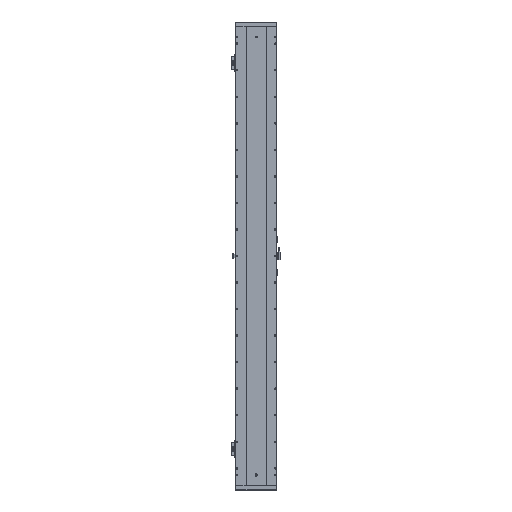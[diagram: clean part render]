
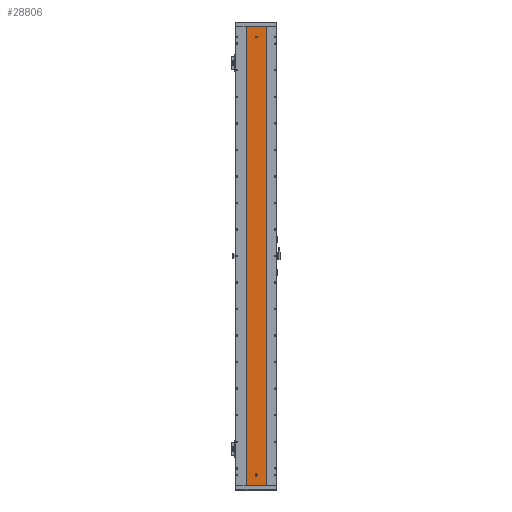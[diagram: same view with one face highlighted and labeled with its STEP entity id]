
A CAD part, front view. The second image highlights one B-rep face of the part: STEP entity #28806.
In plain terms, the highlighted planar face has unit normal (0, -1, 0).
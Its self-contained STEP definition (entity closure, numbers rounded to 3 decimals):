
#1695 = EDGE_LOOP ( 'NONE', ( #92744, #87797, #82993, #9211 ) ) ;
#2243 = LINE ( 'NONE', #37792, #29292 ) ;
#2481 = LINE ( 'NONE', #107945, #45191 ) ;
#4579 = LINE ( 'NONE', #13982, #98510 ) ;
#4678 = DIRECTION ( 'NONE',  ( 0., 0., -1. ) ) ;
#5064 = CARTESIAN_POINT ( 'NONE',  ( 0., 0., -989. ) ) ;
#5430 = EDGE_CURVE ( 'NONE', #65765, #69852, #4579, .T. ) ;
#7354 = ORIENTED_EDGE ( 'NONE', *, *, #75259, .F. ) ;
#9211 = ORIENTED_EDGE ( 'NONE', *, *, #84336, .F. ) ;
#12786 = DIRECTION ( 'NONE',  ( 0., -1., 0. ) ) ;
#13161 = VERTEX_POINT ( 'NONE', #39186 ) ;
#13221 = EDGE_CURVE ( 'NONE', #25235, #92225, #79048, .T. ) ;
#13316 = DIRECTION ( 'NONE',  ( 0., -1., 0. ) ) ;
#13982 = CARTESIAN_POINT ( 'NONE',  ( 45., 0., -1038. ) ) ;
#14221 = DIRECTION ( 'NONE',  ( 1., 0., 0. ) ) ;
#15821 = ORIENTED_EDGE ( 'NONE', *, *, #33599, .T. ) ;
#20448 = LINE ( 'NONE', #104126, #36023 ) ;
#22449 = VERTEX_POINT ( 'NONE', #102859 ) ;
#23117 = DIRECTION ( 'NONE',  ( 1., 0., 0. ) ) ;
#23836 = DIRECTION ( 'NONE',  ( 0., -1., 0. ) ) ;
#25235 = VERTEX_POINT ( 'NONE', #54372 ) ;
#25404 = DIRECTION ( 'NONE',  ( 0., 0., -1. ) ) ;
#28073 = EDGE_CURVE ( 'NONE', #56111, #25235, #20448, .T. ) ;
#28806 = ADVANCED_FACE ( 'NONE', ( #48727, #72897, #78615 ), #32767, .F. ) ;
#29292 = VECTOR ( 'NONE', #92281, 1000. ) ;
#30745 = CARTESIAN_POINT ( 'NONE',  ( 45., 0., 1038. ) ) ;
#31332 = EDGE_LOOP ( 'NONE', ( #64936, #43777, #38611, #15821 ) ) ;
#32767 = PLANE ( 'NONE',  #55851 ) ;
#33599 = EDGE_CURVE ( 'NONE', #22449, #65765, #36638, .T. ) ;
#35323 = CIRCLE ( 'NONE', #93653, 4. ) ;
#36023 = VECTOR ( 'NONE', #4678, 1000. ) ;
#36423 = CARTESIAN_POINT ( 'NONE',  ( 4., 0., -989. ) ) ;
#36638 = LINE ( 'NONE', #52486, #103538 ) ;
#37792 = CARTESIAN_POINT ( 'NONE',  ( 45., 0., 1038. ) ) ;
#38611 = ORIENTED_EDGE ( 'NONE', *, *, #113489, .F. ) ;
#39186 = CARTESIAN_POINT ( 'NONE',  ( 0., 0., 994. ) ) ;
#43777 = ORIENTED_EDGE ( 'NONE', *, *, #68668, .F. ) ;
#45191 = VECTOR ( 'NONE', #89997, 1000. ) ;
#45749 = AXIS2_PLACEMENT_3D ( 'NONE', #78335, #23836, #87458 ) ;
#47881 = CARTESIAN_POINT ( 'NONE',  ( 45., 0., -1038. ) ) ;
#48727 = FACE_BOUND ( 'NONE', #1695, .T. ) ;
#51062 = DIRECTION ( 'NONE',  ( 0., 1., 0. ) ) ;
#52486 = CARTESIAN_POINT ( 'NONE',  ( -45., 0., 1038. ) ) ;
#53679 = CARTESIAN_POINT ( 'NONE',  ( 0., 0., 986. ) ) ;
#54372 = CARTESIAN_POINT ( 'NONE',  ( -4., 0., -991. ) ) ;
#54705 = CIRCLE ( 'NONE', #93627, 4. ) ;
#55851 = AXIS2_PLACEMENT_3D ( 'NONE', #105556, #51062, #114740 ) ;
#56111 = VERTEX_POINT ( 'NONE', #104474 ) ;
#56886 = EDGE_LOOP ( 'NONE', ( #67774, #7354 ) ) ;
#59505 = LINE ( 'NONE', #76880, #99389 ) ;
#64936 = ORIENTED_EDGE ( 'NONE', *, *, #5430, .T. ) ;
#65765 = VERTEX_POINT ( 'NONE', #93195 ) ;
#67274 = CARTESIAN_POINT ( 'NONE',  ( 0., 0., 990. ) ) ;
#67774 = ORIENTED_EDGE ( 'NONE', *, *, #111886, .F. ) ;
#67795 = CARTESIAN_POINT ( 'NONE',  ( 0., 0., -991. ) ) ;
#68668 = EDGE_CURVE ( 'NONE', #71385, #69852, #2243, .T. ) ;
#68712 = DIRECTION ( 'NONE',  ( 0., -1., 0. ) ) ;
#69852 = VERTEX_POINT ( 'NONE', #47881 ) ;
#71385 = VERTEX_POINT ( 'NONE', #30745 ) ;
#72897 = FACE_BOUND ( 'NONE', #56886, .T. ) ;
#75259 = EDGE_CURVE ( 'NONE', #13161, #77271, #117973, .T. ) ;
#76409 = DIRECTION ( 'NONE',  ( 0., 0., -1. ) ) ;
#76880 = CARTESIAN_POINT ( 'NONE',  ( 4., 0., -989. ) ) ;
#76959 = DIRECTION ( 'NONE',  ( 1., 0., 0. ) ) ;
#77271 = VERTEX_POINT ( 'NONE', #53679 ) ;
#78335 = CARTESIAN_POINT ( 'NONE',  ( 0., 0., 990. ) ) ;
#78615 = FACE_OUTER_BOUND ( 'NONE', #31332, .T. ) ;
#79048 = CIRCLE ( 'NONE', #94597, 4. ) ;
#82993 = ORIENTED_EDGE ( 'NONE', *, *, #28073, .F. ) ;
#84336 = EDGE_CURVE ( 'NONE', #86215, #56111, #54705, .T. ) ;
#85984 = DIRECTION ( 'NONE',  ( 0., 0., 1. ) ) ;
#86215 = VERTEX_POINT ( 'NONE', #36423 ) ;
#87458 = DIRECTION ( 'NONE',  ( 0., 0., -1. ) ) ;
#87797 = ORIENTED_EDGE ( 'NONE', *, *, #13221, .F. ) ;
#89712 = EDGE_CURVE ( 'NONE', #92225, #86215, #59505, .T. ) ;
#89997 = DIRECTION ( 'NONE',  ( 1., 0., 0. ) ) ;
#90977 = CARTESIAN_POINT ( 'NONE',  ( 4., 0., -991. ) ) ;
#92225 = VERTEX_POINT ( 'NONE', #90977 ) ;
#92281 = DIRECTION ( 'NONE',  ( 0., 0., -1. ) ) ;
#92744 = ORIENTED_EDGE ( 'NONE', *, *, #89712, .F. ) ;
#93195 = CARTESIAN_POINT ( 'NONE',  ( -45., 0., -1038. ) ) ;
#93627 = AXIS2_PLACEMENT_3D ( 'NONE', #5064, #68712, #14221 ) ;
#93653 = AXIS2_PLACEMENT_3D ( 'NONE', #67274, #12786, #76409 ) ;
#94597 = AXIS2_PLACEMENT_3D ( 'NONE', #67795, #13316, #76959 ) ;
#98510 = VECTOR ( 'NONE', #23117, 1000. ) ;
#99389 = VECTOR ( 'NONE', #85984, 1000. ) ;
#102859 = CARTESIAN_POINT ( 'NONE',  ( -45., 0., 1038. ) ) ;
#103538 = VECTOR ( 'NONE', #25404, 1000. ) ;
#104126 = CARTESIAN_POINT ( 'NONE',  ( -4., 0., -989. ) ) ;
#104474 = CARTESIAN_POINT ( 'NONE',  ( -4., 0., -989. ) ) ;
#105556 = CARTESIAN_POINT ( 'NONE',  ( 45., 0., 1038. ) ) ;
#107945 = CARTESIAN_POINT ( 'NONE',  ( 45., 0., 1038. ) ) ;
#111886 = EDGE_CURVE ( 'NONE', #77271, #13161, #35323, .T. ) ;
#113489 = EDGE_CURVE ( 'NONE', #22449, #71385, #2481, .T. ) ;
#114740 = DIRECTION ( 'NONE',  ( -1., 0., 0. ) ) ;
#117973 = CIRCLE ( 'NONE', #45749, 4. ) ;
